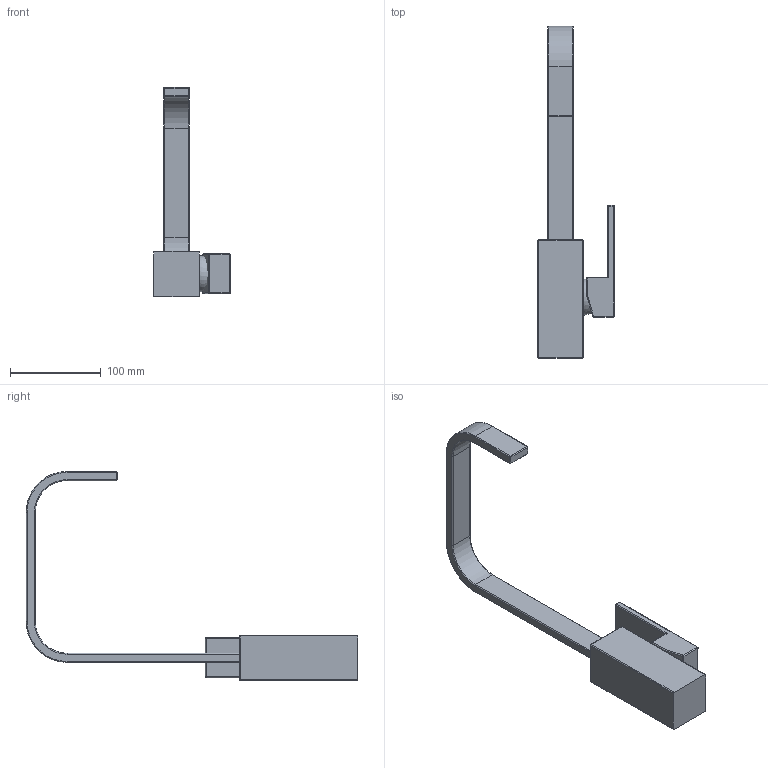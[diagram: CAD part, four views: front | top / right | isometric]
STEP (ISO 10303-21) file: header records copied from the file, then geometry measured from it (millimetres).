
FILE_DESCRIPTION(('STEP AP214'), '1');
FILE_NAME('84CR572RKM', '2020-06-19T12:25:33', (''), (''), 'ASCON STEP Converter 1.3', 'ASCON Math Kernel', '');
FILE_SCHEMA(('AUTOMOTIVE_DESIGN { 1 0 10303 214 3 1 1}'));
Length unit declared in the file: millimetre
Bounding box: 84 x 365 x 230 mm (x, y, z)
Volume: 555129 mm3; surface area: 85244.3 mm2
Topology: 2 solids, 2 shells, 103 faces, 229 edges, 116 vertices
Faces by surface type: cylinder 49, plane 27, sphere 18, torus 9
Full cylindrical faces by diameter (mm): 33.4 x1, 34 x1
Entity records: 3509 total; most frequent: DIRECTION 512, CARTESIAN_POINT 440, ORIENTED_EDGE 416, EDGE_CURVE 208, AXIS2_PLACEMENT_3D 204, VERTEX_POINT 116, EDGE_LOOP 110, COLOUR_RGB 105
